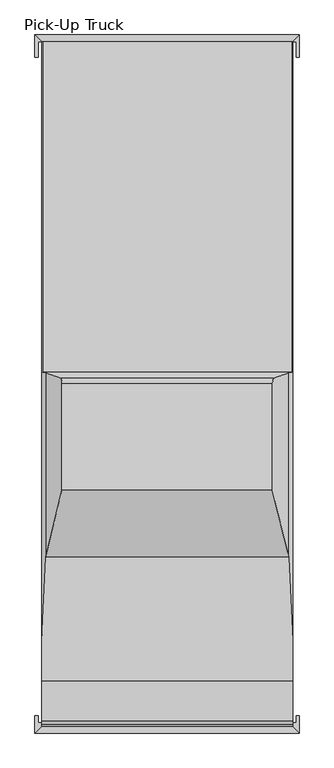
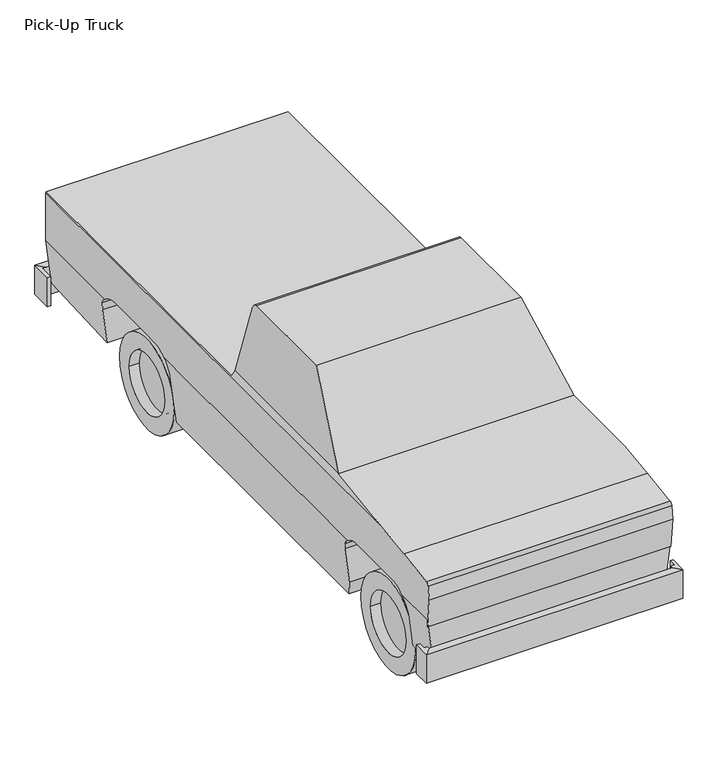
"""IFC4 building model written with IfcOpenShell, lengths in millimetres: geographic element geometry, Truck-PickUp (M) : Pick-Up Truck."""

from ifc_helpers import new_model, si_unit, point, frame, frame_2d, origin, place, context, project, spatial, polyline, circle_curve, ellipse_curve, trimmed, segment, composite_curve, outline, extrude, faceted_brep, source, transform, mapped, element, save
from ifc_brep_helpers import plane_surface, cylinder_surface, revolved_surface, advanced_brep


def pick_up_truck_a7c124ad(model_context):
    return source(origin(), model_context, "Body", "SolidModel", [
        advanced_brep(
        [(-882.1615385, 2103.6156034, 888.7336798), (-882.1615385, 1697.2156034, 888.7336798), (-882.1615385, 1614.7015006, 885.1455636), (-882.1615385, 1473.5121228, 837.1131584), (-882.1615385, -912.9817492, 837.1131584), (-882.1615385, -1053.9517054, 878.8872426), (-882.1615385, -1474.8105853, 878.8872426), (-882.1615385, -1617.7834877, 837.1131584), (-882.1615385, -1951.924276, 837.1131584), (-882.1615385, -1951.924276, 779.2411665), (-882.1615385, -1975.8194827, 1006.5888718), (-882.1615385, -1963.4375574, 1107.4315608), (-882.1615385, -1939.9042038, 1130.9649145), (-882.1615385, -1644.5045632, 1173.526104), (-882.1615385, -1353.2454526, 1210.3079682), (-882.1615385, 3015.7615385, 1210.3079682), (-882.1615385, 3015.7615385, 837.1131584), (-882.1615385, 2243.9728923, 837.1131584), (946.6384615, -1644.5045632, 1173.526104), (946.6384615, -1939.9042038, 1130.9649145), (946.6384615, -1963.4375574, 1107.4315608), (946.6384615, -1975.8194827, 1006.5888718), (946.6384615, -1951.924276, 779.2411665), (946.6384615, -1951.924276, 837.1131584), (946.6384615, -1617.7834877, 837.1131584), (946.6384615, -1474.8105853, 878.8872426), (946.6384615, -1053.9517054, 878.8872426), (946.6384615, -912.9817492, 837.1131584), (946.6384615, 1473.5121228, 837.1131584), (946.6384615, 1614.7015006, 885.1455636), (946.6384615, 1697.2156034, 888.7336798), (946.6384615, 2103.6156034, 888.7336798), (946.6384615, 2243.9728923, 837.1131584), (946.6384615, 3015.7615385, 837.1131584), (946.6384615, 3015.7615385, 1210.3079682), (946.6384615, -1353.2454526, 1210.3079682), (-876.2843723, 3015.7615385, 1219.2), (940.7612953, 3015.7615385, 1219.2), (902.1686195, 3015.7615385, 480.544728), (-837.6916964, 3015.7615385, 480.544728), (897.0369558, 2300.369269, 439.3979826), (-832.5600327, 2300.369269, 439.3979826), (930.9047354, 2300.369269, 710.9568741), (-866.4278123, 2300.369269, 710.9568741), (939.4838124, 2288.2399438, 779.7456957), (-875.0068893, 2288.2399438, 779.7456957), (944.2646239, 1453.4521306, 818.079235), (-879.7877008, 1453.4521306, 818.079235), (935.7642918, 1419.378607, 749.921807), (-871.2873687, 1419.378607, 749.921807), (884.1769157, 1419.378607, 336.2835102), (-819.6999926, 1419.378607, 336.2835102), (884.1769157, -823.559725, 336.2835102), (-819.6999926, -823.559725, 336.2835102), (898.6478484, -854.6501227, 452.314454), (-834.1709253, -854.6501227, 452.314454), (933.4935408, -854.6501227, 731.714454), (-869.0166178, -854.6501227, 731.714454), (939.6132416, -867.7981302, 780.783486), (-875.1363185, -867.7981302, 780.783486), (930.9350571, -1682.962287, 711.2), (-866.458134, -1682.962287, 711.2), (899.0315641, -1682.962287, 455.3911665), (-834.554641, -1682.962287, 455.3911665), (899.0315641, -1951.924276, 455.3911665), (-834.554641, -1951.924276, 455.3911665), (939.4208895, -1951.924276, 779.2411665), (-874.9439664, -1951.924276, 779.2411665), (917.6799973, -743.8423581, 1254.1215299), (-853.2030742, -743.8423581, 1254.1215299), (800.2028589, -255.2503888, 1778.0), (-735.7259358, -255.2503888, 1778.0), (800.2028589, 522.1190782, 1778.0), (-735.7259358, 522.1190782, 1778.0), (-743.5250355, 560.0740962, 1743.2206338), (808.0019586, 560.0740962, 1743.2206338), (917.6799973, 602.8647232, 1254.1215299), (940.7612953, 605.9199612, 1219.2), (-876.2843723, 605.9199612, 1219.2), (-853.2030742, 602.8647232, 1254.1215299)],
        [
            (0, 1),
            (1, 2),
            (2, 3, circle_curve(frame((-882.1615385, 1606.9552598, 676.3888042), z_axis=(1.0, 0.0, 0.0), x_axis=(0.0, -1.0, 0.0)), 208.900428)),
            (3, 4),
            (4, 5, circle_curve(frame((-882.1615385, -1031.5575926, 695.7137663), z_axis=(1.0, 0.0, 0.0), x_axis=(0.0, -1.0, 0.0)), 184.5373098)),
            (5, 6),
            (6, 7, circle_curve(frame((-882.1615385, -1498.8876828, 695.7404401), z_axis=(1.0, 0.0, 0.0), x_axis=(0.0, -1.0, 0.0)), 184.7226513)),
            (7, 8),
            (8, 9),
            (9, 10),
            (10, 11),
            (11, 12, circle_curve(frame((-882.1615385, -1939.9042038, 1107.4315608), z_axis=(-1.0, 0.0, 0.0), x_axis=(0.0, -1.0, 0.0)), 23.5333537)),
            (12, 13),
            (13, 14, circle_curve(frame((-882.1615385, -446.5414344, -7141.0412638), z_axis=(-1.0, 0.0, 0.0), x_axis=(0.0, -1.0, 0.0)), 8400.4253566)),
            (14, 15),
            (15, 16),
            (16, 17),
            (17, 0, circle_curve(frame((-882.1615385, 2109.2327636, 687.3793785), z_axis=(1.0, 0.0, 0.0), x_axis=(0.0, -1.0, 0.0)), 201.4326367)),
            (18, 19),
            (19, 20, circle_curve(frame((946.6384615, -1939.9042038, 1107.4315608), z_axis=(1.0, 0.0, 0.0), x_axis=(0.0, -1.0, 0.0)), 23.5333537)),
            (20, 21),
            (21, 22),
            (22, 23),
            (23, 24),
            (24, 25, circle_curve(frame((946.6384615, -1498.8876828, 695.7404401), z_axis=(-1.0, 0.0, 0.0), x_axis=(0.0, -1.0, 0.0)), 184.7226513)),
            (25, 26),
            (26, 27, circle_curve(frame((946.6384615, -1031.5575926, 695.7137663), z_axis=(-1.0, 0.0, 0.0), x_axis=(0.0, -1.0, 0.0)), 184.5373098)),
            (27, 28),
            (28, 29, circle_curve(frame((946.6384615, 1606.9552598, 676.3888042), z_axis=(-1.0, 0.0, 0.0), x_axis=(0.0, -1.0, 0.0)), 208.900428)),
            (29, 30),
            (30, 31),
            (31, 32, circle_curve(frame((946.6384615, 2109.2327636, 687.3793785), z_axis=(-1.0, 0.0, 0.0), x_axis=(0.0, -1.0, 0.0)), 201.4326367)),
            (32, 33),
            (33, 34),
            (34, 35),
            (35, 18, circle_curve(frame((946.6384615, -446.5414344, -7141.0412638), z_axis=(1.0, 0.0, 0.0), x_axis=(0.0, -1.0, 0.0)), 8400.4253566)),
            (15, 36),
            (36, 37),
            (37, 34),
            (33, 38),
            (38, 39),
            (39, 16),
            (38, 40),
            (40, 41),
            (41, 39),
            (40, 42),
            (42, 43),
            (43, 41),
            (42, 44),
            (44, 45),
            (45, 43),
            (31, 0),
            (17, 45, ellipse_curve(frame((-863.4873178, 2109.2327636, 687.3793785), z_axis=(-0.9923125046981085, 0.0, -0.12375739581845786), x_axis=(0.12375739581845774, 0.0, -0.9923125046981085)), 202.9931455, 201.4326367)),
            (44, 32, ellipse_curve(frame((927.9642409, 2109.2327636, 687.3793785), z_axis=(0.992312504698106, 0.0, -0.12375739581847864), x_axis=(0.12375739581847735, 0.0, 0.9923125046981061)), 202.9931455, 201.4326367)),
            (30, 1),
            (29, 2),
            (28, 46, ellipse_curve(frame((926.5935388, 1606.9552598, 676.3888042), z_axis=(0.992312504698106, 0.0, -0.12375739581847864), x_axis=(0.12375739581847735, 0.0, 0.9923125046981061)), 210.5187902, 208.900428)),
            (46, 47),
            (47, 3, ellipse_curve(frame((-862.1166157, 1606.9552598, 676.3888042), z_axis=(-0.9923125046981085, 0.0, -0.12375739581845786), x_axis=(0.12375739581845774, 0.0, -0.9923125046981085)), 210.5187902, 208.900428)),
            (46, 48),
            (48, 49),
            (49, 47),
            (48, 50),
            (50, 51),
            (51, 49),
            (50, 52),
            (52, 53),
            (53, 51),
            (52, 54),
            (54, 55),
            (55, 53),
            (54, 56),
            (56, 57),
            (57, 55),
            (56, 58),
            (58, 59),
            (59, 57),
            (26, 5),
            (4, 59, ellipse_curve(frame((-864.5267506, -1031.5575926, 695.7137663), z_axis=(-0.9923125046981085, 0.0, -0.12375739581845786), x_axis=(0.12375739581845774, 0.0, -0.9923125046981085)), 185.9669297, 184.5373098)),
            (58, 27, ellipse_curve(frame((929.0036737, -1031.5575926, 695.7137663), z_axis=(0.992312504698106, 0.0, -0.12375739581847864), x_axis=(0.12375739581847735, 0.0, 0.9923125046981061)), 185.9669297, 184.5373098)),
            (25, 6),
            (24, 60, ellipse_curve(frame((929.0070003, -1498.8876828, 695.7404401), z_axis=(0.992312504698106, 0.0, -0.12375739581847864), x_axis=(0.12375739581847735, 0.0, 0.9923125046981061)), 186.153707, 184.7226513)),
            (60, 61),
            (61, 7, ellipse_curve(frame((-864.5300772, -1498.8876828, 695.7404401), z_axis=(-0.9923125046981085, 0.0, -0.12375739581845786), x_axis=(0.12375739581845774, 0.0, -0.9923125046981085)), 186.153707, 184.7226513)),
            (60, 62),
            (62, 63),
            (63, 61),
            (62, 64),
            (64, 65),
            (65, 63),
            (64, 66),
            (66, 67),
            (67, 65),
            (9, 67),
            (66, 22),
            (21, 10),
            (20, 11),
            (19, 12),
            (18, 13),
            (35, 68, ellipse_curve(frame((6466.4418903, -446.5414344, -7141.0412638), z_axis=(-0.8342458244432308, 0.0, -0.5513926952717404), x_axis=(-0.55139269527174, 0.0, 0.8342458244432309)), 10069.4844499, 8400.4253566)),
            (68, 69),
            (69, 14, ellipse_curve(frame((-6401.9649673, -446.5414344, -7141.0412638), z_axis=(0.8342458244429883, 0.0, -0.551392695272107), x_axis=(-0.551392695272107, 0.0, -0.8342458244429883)), 10069.4844499, 8400.4253566)),
            (68, 70),
            (70, 71),
            (71, 69),
            (70, 72),
            (72, 73),
            (73, 71),
            (74, 75),
            (75, 76),
            (76, 77),
            (77, 78),
            (78, 79),
            (79, 74),
            (36, 78),
            (77, 37),
            (8, 67),
            (66, 23),
            (69, 79),
            (73, 74, ellipse_curve(frame((-744.2696711, 522.1190782, 1739.9), z_axis=(-0.9757672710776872, 0.0, 0.2188109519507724), x_axis=(-0.2188109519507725, 0.0, -0.9757672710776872)), 39.0461959, 38.1)),
            (68, 76),
            (75, 72, ellipse_curve(frame((808.7465942, 522.1190782, 1739.9), z_axis=(0.9757672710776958, 0.0, 0.2188109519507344), x_axis=(-0.21881095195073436, 0.0, 0.9757672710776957)), 39.0461959, 38.1)),
        ],
        [
            plane_surface(frame((-882.1615385, 3015.7615385, 480.544728), z_axis=(-1.0, 0.0, 0.0), x_axis=(0.0, 0.0, -1.0))),
            plane_surface(frame((946.6384615, 3015.7615385, 480.544728), z_axis=(1.0, 0.0, 0.0), x_axis=(0.0, 0.0, 1.0))),
            plane_surface(frame((-882.1615385, 3015.7615385, 1219.2), z_axis=(0.0, 1.0, 0.0), x_axis=(1.0, 0.0, 0.0))),
            plane_surface(frame((-882.1615385, 3015.7615385, 480.544728), z_axis=(0.0, 0.05742144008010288, -0.9983500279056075), x_axis=(1.0, 0.0, 0.0))),
            plane_surface(frame((-882.1615385, 2300.369269, 439.3979826), z_axis=(0.0, -1.0, 0.0), x_axis=(1.0, 0.0, 0.0))),
            plane_surface(frame((-882.1615385, 2300.369269, 710.9568741), z_axis=(0.0, -0.9848077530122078, -0.17364817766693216), x_axis=(1.0, 0.0, 0.0))),
            revolved_surface(polyline([(953.0861439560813, 1907.8001269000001, 687.3793785), (-888.6092208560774, 1907.8001269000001, 687.3793785)]), (946.6384615, 2109.2327636, 687.3793785), (1.0, 0.0, 0.0)),
            plane_surface(frame((-882.1615385, 2103.6156034, 888.7336798), z_axis=(0.0, 0.0, -1.0), x_axis=(1.0, 0.0, 0.0))),
            plane_surface(frame((-882.1615385, 1697.2156034, 888.7336798), z_axis=(0.0, 0.04344382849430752, -0.9990558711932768), x_axis=(1.0, 0.0, 0.0))),
            revolved_surface(polyline([(952.6467960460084, 1398.0548318, 676.3888042), (-888.1698729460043, 1398.0548318, 676.3888042)]), (946.6384615, 1606.9552598, 676.3888042), (1.0, 0.0, 0.0)),
            plane_surface(frame((-882.1615385, 1453.4521306, 818.079235), z_axis=(0.0, 0.8944544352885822, -0.44715910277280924), x_axis=(1.0, 0.0, 0.0))),
            plane_surface(frame((-882.1615385, 1419.378607, 749.921807), z_axis=(0.0, 1.0, 0.0), x_axis=(1.0, 0.0, 0.0))),
            plane_surface(frame((-882.1615385, 1419.378607, 336.2835102), z_axis=(0.0, 0.0, -1.0), x_axis=(1.0, 0.0, 0.0))),
            plane_surface(frame((-882.1615385, -823.559725, 336.2835102), z_axis=(0.0, -0.965925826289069, -0.2588190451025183), x_axis=(1.0, 0.0, 0.0))),
            plane_surface(frame((-882.1615385, -854.6501227, 452.314454), z_axis=(0.0, -1.0, 0.0), x_axis=(1.0, 0.0, 0.0))),
            plane_surface(frame((-882.1615385, -854.6501227, 731.714454), z_axis=(0.0, -0.9659258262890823, -0.25881904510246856), x_axis=(1.0, 0.0, 0.0))),
            revolved_surface(polyline([(952.0184566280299, -1216.0949024, 695.7137663), (-887.5415335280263, -1216.0949024, 695.7137663)]), (946.6384615, -1031.5575926, 695.7137663), (1.0, 0.0, 0.0)),
            plane_surface(frame((-882.1615385, -1053.9517054, 878.8872426), z_axis=(0.0, 0.0, -1.0), x_axis=(1.0, 0.0, 0.0))),
            revolved_surface(polyline([(952.0448983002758, -1683.6103341, 695.7404401), (-887.5679752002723, -1683.6103341, 695.7404401)]), (946.6384615, -1498.8876828, 695.7404401), (1.0, 0.0, 0.0)),
            plane_surface(frame((-882.1615385, -1682.962287, 711.2), z_axis=(0.0, 1.0, 0.0), x_axis=(1.0, 0.0, 0.0))),
            plane_surface(frame((-882.1615385, -1682.962287, 455.3911665), z_axis=(0.0, 0.0, -1.0), x_axis=(1.0, 0.0, 0.0))),
            plane_surface(frame((-882.1615385, -1951.924276, 455.3911665), z_axis=(0.0, -1.0, 0.0), x_axis=(1.0, 0.0, 0.0))),
            plane_surface(frame((-882.1615385, -1951.924276, 779.2411665), z_axis=(0.0, -0.9945218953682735, -0.10452846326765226), x_axis=(1.0, 0.0, 0.0))),
            plane_surface(frame((-882.1615385, -1975.8194827, 1006.5888718), z_axis=(0.0, -0.9925461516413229, 0.12186934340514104), x_axis=(1.0, 0.0, 0.0))),
            cylinder_surface(frame((946.6384615, -1939.9042038, 1107.4315608), z_axis=(-1.0, 0.0, 0.0), x_axis=(0.0, -1.0, 0.0)), 23.5333537),
            plane_surface(frame((-882.1615385, -1939.9042038, 1130.9649145), z_axis=(0.0, -0.1426074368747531, 0.9897793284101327), x_axis=(1.0, 0.0, 0.0))),
            cylinder_surface(frame((946.6384615, -446.5414344, -7141.0412638), z_axis=(-1.0, 0.0, 0.0), x_axis=(0.0, -1.0, 0.0)), 8400.4253566),
            plane_surface(frame((-882.1615385, -743.8423581, 1254.1215299), z_axis=(0.0, -0.7313067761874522, 0.6820486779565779), x_axis=(1.0, 0.0, 0.0))),
            plane_surface(frame((-882.1615385, -255.2503888, 1778.0), z_axis=(0.0, 0.0, 1.0), x_axis=(1.0, 0.0, 0.0))),
            plane_surface(frame((-882.1615385, 560.0740962, 1743.2206338), z_axis=(0.0, 0.9961946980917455, 0.08715574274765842), x_axis=(1.0, 0.0, 0.0))),
            plane_surface(frame((-882.1615385, 605.9199612, 1219.2), z_axis=(0.0, 0.0, 1.0), x_axis=(1.0, 0.0, 0.0))),
            plane_surface(frame((-730.4934031, -1951.924276, 305.3311322), z_axis=(0.0, 1.0, 0.0), x_axis=(1.0, 0.0, 0.0))),
            plane_surface(frame((-815.8397312, -1951.924276, 305.3311322), z_axis=(-0.9923125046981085, 0.0, -0.12375739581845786), x_axis=(0.0, 1.0, 0.0))),
            plane_surface(frame((-884.2900076, -1951.924276, 1207.0876381), z_axis=(-0.8342458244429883, 0.0, 0.551392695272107), x_axis=(0.0, 1.0, 0.0))),
            plane_surface(frame((-853.2030742, -1951.924276, 1254.1215299), z_axis=(-0.9757672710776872, 0.0, 0.2188109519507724), x_axis=(0.0, 1.0, 0.0))),
            plane_surface(frame((800.2028589, -1951.924276, 1778.0), z_axis=(0.9757672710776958, 0.0, 0.2188109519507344), x_axis=(0.0, 1.0, 0.0))),
            plane_surface(frame((917.6799973, -1951.924276, 1254.1215299), z_axis=(0.8342458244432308, 0.0, 0.5513926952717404), x_axis=(0.0, 1.0, 0.0))),
            plane_surface(frame((948.7669307, -1951.924276, 854.1796662), z_axis=(0.992312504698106, 0.0, -0.12375739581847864), x_axis=(0.0, 1.0, 0.0))),
            cylinder_surface(frame((946.6384615, 522.1190782, 1739.9), z_axis=(-1.0, 0.0, 0.0), x_axis=(0.0, -1.0, 0.0)), 38.1),
        ],
        [
            (0, [[1, 2, 3, 4, 5, 6, 7, 8, 9, 10, 11, 12, 13, 14, 15, 16, 17, 18]]),
            (1, [[19, 20, 21, 22, 23, 24, 25, 26, 27, 28, 29, 30, 31, 32, 33, 34, 35, 36]]),
            (2, [[-16, 37, 38, 39, -34, 40, 41, 42]]),
            (3, [[-41, 43, 44, 45]]),
            (4, [[-44, 46, 47, 48]]),
            (5, [[-47, 49, 50, 51]]),
            (6, [[52, -18, 53, -50, 54, -32]]),
            (7, [[-1, -52, -31, 55]]),
            (8, [[-2, -55, -30, 56]]),
            (9, [[-56, -29, 57, 58, 59, -3]]),
            (10, [[-58, 60, 61, 62]]),
            (11, [[-61, 63, 64, 65]]),
            (12, [[-64, 66, 67, 68]]),
            (13, [[-67, 69, 70, 71]]),
            (14, [[-70, 72, 73, 74]]),
            (15, [[-73, 75, 76, 77]]),
            (16, [[78, -5, 79, -76, 80, -27]]),
            (17, [[-6, -78, -26, 81]]),
            (18, [[-81, -25, 82, 83, 84, -7]]),
            (19, [[-83, 85, 86, 87]]),
            (20, [[-86, 88, 89, 90]]),
            (21, [[-89, 91, 92, 93]]),
            (22, [[-10, 94, -92, 95, -22, 96]]),
            (23, [[-11, -96, -21, 97]]),
            (24, [[-12, -97, -20, 98]]),
            (25, [[-13, -98, -19, 99]]),
            (26, [[-99, -36, 100, 101, 102, -14]]),
            (27, [[-101, 103, 104, 105]]),
            (28, [[-104, 106, 107, 108]]),
            (29, [[109, 110, 111, 112, 113, 114]]),
            (30, [[-38, 115, -112, 116]]),
            (31, [[117, -94, -9]]),
            (31, [[118, -23, -95]]),
            (32, [[-4, -59, -62, -65, -68, -71, -74, -77, -79]]),
            (32, [[-17, -42, -45, -48, -51, -53]]),
            (32, [[-117, -8, -84, -87, -90, -93]]),
            (33, [[119, -113, -115, -37, -15, -102]]),
            (34, [[-119, -105, -108, 120, -114]]),
            (35, [[121, -110, 122, -106, -103]]),
            (36, [[-121, -100, -35, -39, -116, -111]]),
            (37, [[-28, -80, -75, -72, -69, -66, -63, -60, -57]]),
            (37, [[-33, -54, -49, -46, -43, -40]]),
            (37, [[-118, -91, -88, -85, -82, -24]]),
            (38, [[-107, -122, -109, -120]]),
        ],
    ),
        faceted_brep([(-932.9615385, -1899.6194827, 394.7577003), (-932.9615385, -1899.6194827, 623.3577003), (-907.5615385, -1899.6194827, 623.3577003), (-907.5615385, -1899.6194827, 394.7577003), (-932.9615385, -2026.6194827, 394.7577003), (-932.9615385, -2026.6194827, 623.3577003), (-882.1615385, -1975.8194827, 623.3577003), (-882.1615385, -1951.924276, 623.3577003), (-907.5615385, -1951.924276, 623.3577003), (-882.1615385, -1975.8194827, 394.7577003), (-882.1615385, -1951.924276, 394.7577003), (-907.5615385, -1951.924276, 394.7577003), (993.9251801, -2026.6194827, 394.7577003), (993.9251801, -2026.6194827, 623.3577003), (943.1251801, -1975.8194827, 623.3577003), (943.1251801, -1975.8194827, 394.7577003), (993.9251801, -1899.6194827, 623.3577003), (993.9251801, -1899.6194827, 394.7577003), (972.0384615, -1899.6194827, 394.7577003), (972.0384615, -1899.6194827, 623.3577003), (972.0384615, -1951.924276, 623.3577003), (943.1251801, -1951.924276, 623.3577003), (943.1251801, -1951.924276, 394.7577003), (972.0384615, -1951.924276, 394.7577003)], [[[0, 1, 2, 3]], [[1, 0, 4, 5]], [[1, 5, 6, 7, 8, 2]], [[6, 9, 10, 7]], [[4, 0, 3, 11, 10, 9]], [[5, 4, 12, 13]], [[6, 5, 13, 14]], [[9, 6, 14, 15]], [[4, 9, 15, 12]], [[16, 17, 18, 19]], [[13, 12, 17, 16]], [[14, 13, 16, 19, 20, 21]], [[15, 14, 21, 22]], [[12, 15, 22, 23, 18, 17]], [[11, 8, 7, 10]], [[20, 23, 22, 21]], [[8, 11, 3, 2]], [[23, 20, 19, 18]]]),
        faceted_brep([(-932.9615385, 2903.0203063, 623.3577003), (-932.9615385, 2903.0203063, 394.7577003), (-907.5615385, 2903.0203063, 394.7577003), (-907.5615385, 2903.0203063, 623.3577003), (-932.9615385, 3066.5615385, 394.7577003), (-882.1615385, 3015.7615385, 394.7577003), (-907.5615385, 3015.7615385, 394.7577003), (-882.1615385, 3015.7615385, 623.3577003), (-932.9615385, 3066.5615385, 623.3577003), (-907.5615385, 3015.7615385, 623.3577003), (943.1251801, 3015.7615385, 394.7577003), (993.9251801, 3066.5615385, 394.7577003), (972.0384615, 3015.7615385, 394.7577003), (972.0384615, 3015.7615385, 623.3577003), (943.1251801, 3015.7615385, 623.3577003), (993.9251801, 3066.5615385, 623.3577003), (993.9251801, 2903.0203063, 394.7577003), (993.9251801, 2903.0203063, 623.3577003), (972.0384615, 2903.0203063, 623.3577003), (972.0384615, 2903.0203063, 394.7577003)], [[[0, 1, 2, 3]], [[1, 4, 5, 6, 2]], [[7, 8, 0, 3, 9]], [[1, 0, 8, 4]], [[10, 5, 4, 11]], [[10, 12, 13, 14, 7, 9, 6, 5]], [[8, 7, 14, 15]], [[4, 8, 15, 11]], [[16, 17, 18, 19]], [[10, 11, 16, 19, 12]], [[15, 14, 13, 18, 17]], [[11, 15, 17, 16]], [[6, 9, 3, 2]], [[13, 12, 19, 18]]]),
        extrude(outline(composite_curve([segment(trimmed(circle_curve(frame_2d((1872.7733891, 355.6)), 355.6), [point((1517.1733891, 355.6))], [point((2228.3733891, 355.6))], False, "CARTESIAN"), True, "CONTINUOUS"), segment(trimmed(circle_curve(frame_2d((1872.7733891, 355.6)), 355.6), [point((2228.3733891, 355.6))], [point((1517.1733891, 355.6))], False, "CARTESIAN"), True, "CONTINUOUS")], self_intersect=False), holes=[composite_curve([segment(trimmed(circle_curve(frame_2d((1872.7733891, 355.6)), 228.6), [point((2101.3733891, 355.6))], [point((1644.1733891, 355.6))], True, "CARTESIAN"), True, "CONTINUOUS"), segment(trimmed(circle_curve(frame_2d((1872.7733891, 355.6)), 228.6), [point((1644.1733891, 355.6))], [point((2101.3733891, 355.6))], True, "CARTESIAN"), True, "CONTINUOUS")], self_intersect=False)]), frame((-780.5615385, 0.0, 0.0), z_axis=(1.0, 0.0, 0.0), x_axis=(0.0, 1.0, 0.0)), (0.0, 0.0, 1.0), 203.2),
        extrude(outline(composite_curve([segment(trimmed(circle_curve(frame_2d((-1267.5375629, 355.6)), 355.6), [point((-911.9375629, 355.6))], [point((-1623.1375629, 355.6))], False, "CARTESIAN"), True, "CONTINUOUS"), segment(trimmed(circle_curve(frame_2d((-1267.5375629, 355.6)), 355.6), [point((-1623.1375629, 355.6))], [point((-911.9375629, 355.6))], False, "CARTESIAN"), True, "CONTINUOUS")], self_intersect=False), holes=[composite_curve([segment(trimmed(circle_curve(frame_2d((-1267.5375629, 355.6)), 228.6), [point((-1038.9375629, 355.6))], [point((-1496.1375629, 355.6))], True, "CARTESIAN"), True, "CONTINUOUS"), segment(trimmed(circle_curve(frame_2d((-1267.5375629, 355.6)), 228.6), [point((-1496.1375629, 355.6))], [point((-1038.9375629, 355.6))], True, "CARTESIAN"), True, "CONTINUOUS")], self_intersect=False)]), frame((-780.5615385, 0.0, 0.0), z_axis=(1.0, 0.0, 0.0), x_axis=(0.0, 1.0, 0.0)), (0.0, 0.0, 1.0), 203.2),
        extrude(outline(polyline([(520.2761241, 2300.369269), (520.2761241, 1419.378607), (-437.7696481, 1419.378607), (-437.7696481, 2300.369269), (520.2761241, 2300.369269)])), frame((0.0, 0.0, 595.9078125), z_axis=(0.0, 0.0, 1.0), x_axis=(1.0, 0.0, 0.0)), (0.0, 0.0, 1.0), 27.7189478),
        extrude(outline(composite_curve([segment(polyline([(2300.369269, 456.9336798), (1419.378607, 456.9336798), (1419.378607, 749.921807), (1453.4521306, 818.079235)]), True, "CONTINUOUS"), segment(trimmed(circle_curve(frame_2d((1606.9552598, 676.3888042)), 208.900428), [point((1453.4521306, 818.079235))], [point((1614.7015006, 885.1455636))], False, "CARTESIAN"), True, "CONTINUOUS"), segment(polyline([(1614.7015006, 885.1455636), (1697.2156034, 888.7336798), (2103.6156034, 888.7336798)]), True, "CONTINUOUS"), segment(trimmed(circle_curve(frame_2d((2109.2327636, 687.3793785)), 201.4326367), [point((2103.6156034, 888.7336798))], [point((2288.2399438, 779.7456957))], False, "CARTESIAN"), True, "CONTINUOUS"), segment(polyline([(2288.2399438, 779.7456957), (2300.369269, 710.9568741), (2300.369269, 456.9336798)]), True, "CONTINUOUS")], self_intersect=False)), frame((-484.8485994, 0.0, 0.0), z_axis=(1.0, 0.0, 0.0), x_axis=(0.0, 1.0, 0.0)), (0.0, 0.0, 1.0), 47.0684735),
        extrude(outline(composite_curve([segment(polyline([(2300.369269, 456.9336798), (1419.378607, 456.9336798), (1419.378607, 749.921807), (1453.4521306, 818.079235)]), True, "CONTINUOUS"), segment(trimmed(circle_curve(frame_2d((1606.9552598, 676.3888042)), 208.900428), [point((1453.4521306, 818.079235))], [point((1614.7015006, 885.1455636))], False, "CARTESIAN"), True, "CONTINUOUS"), segment(polyline([(1614.7015006, 885.1455636), (1697.2156034, 888.7336798), (2103.6156034, 888.7336798)]), True, "CONTINUOUS"), segment(trimmed(circle_curve(frame_2d((2109.2327636, 687.3793785)), 201.4326367), [point((2103.6156034, 888.7336798))], [point((2288.2399438, 779.7456957))], False, "CARTESIAN"), True, "CONTINUOUS"), segment(polyline([(2288.2399438, 779.7456957), (2300.369269, 710.9568741), (2300.369269, 456.9336798)]), True, "CONTINUOUS")], self_intersect=False)), frame((520.2761241, 0.0, 0.0), z_axis=(1.0, 0.0, 0.0), x_axis=(0.0, 1.0, 0.0)), (0.0, 0.0, 1.0), 35.321875),
        extrude(outline(composite_curve([segment(trimmed(circle_curve(frame_2d((1872.7733891, 355.6)), 228.6), [point((1644.1733891, 355.6))], [point((2101.3733891, 355.6))], False, "CARTESIAN"), True, "CONTINUOUS"), segment(trimmed(circle_curve(frame_2d((1872.7733891, 355.6)), 228.6), [point((2101.3733891, 355.6))], [point((1644.1733891, 355.6))], False, "CARTESIAN"), True, "CONTINUOUS")], self_intersect=False)), frame((-705.0934031, 0.0, 0.0), z_axis=(1.0, 0.0, 0.0), x_axis=(0.0, 1.0, 0.0)), (0.0, 0.0, 1.0), 127.8117146),
        extrude(outline(composite_curve([segment(trimmed(circle_curve(frame_2d((-1267.5375629, 355.6)), 228.6), [point((-1496.1375629, 355.6))], [point((-1038.9375629, 355.6))], False, "CARTESIAN"), True, "CONTINUOUS"), segment(trimmed(circle_curve(frame_2d((-1267.5375629, 355.6)), 228.6), [point((-1038.9375629, 355.6))], [point((-1496.1375629, 355.6))], False, "CARTESIAN"), True, "CONTINUOUS")], self_intersect=False)), frame((-705.0934031, 0.0, 0.0), z_axis=(1.0, 0.0, 0.0), x_axis=(0.0, 1.0, 0.0)), (0.0, 0.0, 1.0), 127.8117146),
        extrude(outline(composite_curve([segment(trimmed(circle_curve(frame_2d((1872.7733891, 355.6)), 355.6), [point((1517.1733891, 355.6))], [point((2228.3733891, 355.6))], False, "CARTESIAN"), True, "CONTINUOUS"), segment(trimmed(circle_curve(frame_2d((1872.7733891, 355.6)), 355.6), [point((2228.3733891, 355.6))], [point((1517.1733891, 355.6))], False, "CARTESIAN"), True, "CONTINUOUS")], self_intersect=False), holes=[composite_curve([segment(trimmed(circle_curve(frame_2d((1872.7733891, 355.6)), 228.6), [point((2101.3733891, 355.6))], [point((1644.1733891, 355.6))], True, "CARTESIAN"), True, "CONTINUOUS"), segment(trimmed(circle_curve(frame_2d((1872.7733891, 355.6)), 228.6), [point((1644.1733891, 355.6))], [point((2101.3733891, 355.6))], True, "CARTESIAN"), True, "CONTINUOUS")], self_intersect=False)]), frame((641.8384615, 0.0, 0.0), z_axis=(1.0, 0.0, 0.0), x_axis=(0.0, 1.0, 0.0)), (0.0, 0.0, 1.0), 203.2),
        extrude(outline(composite_curve([segment(trimmed(circle_curve(frame_2d((-1267.5375629, 355.6)), 355.6), [point((-911.9375629, 355.6))], [point((-1623.1375629, 355.6))], False, "CARTESIAN"), True, "CONTINUOUS"), segment(trimmed(circle_curve(frame_2d((-1267.5375629, 355.6)), 355.6), [point((-1623.1375629, 355.6))], [point((-911.9375629, 355.6))], False, "CARTESIAN"), True, "CONTINUOUS")], self_intersect=False), holes=[composite_curve([segment(trimmed(circle_curve(frame_2d((-1267.5375629, 355.6)), 228.6), [point((-1038.9375629, 355.6))], [point((-1496.1375629, 355.6))], True, "CARTESIAN"), True, "CONTINUOUS"), segment(trimmed(circle_curve(frame_2d((-1267.5375629, 355.6)), 228.6), [point((-1496.1375629, 355.6))], [point((-1038.9375629, 355.6))], True, "CARTESIAN"), True, "CONTINUOUS")], self_intersect=False)]), frame((641.8384615, 0.0, 0.0), z_axis=(1.0, 0.0, 0.0), x_axis=(0.0, 1.0, 0.0)), (0.0, 0.0, 1.0), 203.2),
        extrude(outline(composite_curve([segment(trimmed(circle_curve(frame_2d((1872.7733891, 355.6)), 228.6), [point((1644.1733891, 355.6))], [point((2101.3733891, 355.6))], False, "CARTESIAN"), True, "CONTINUOUS"), segment(trimmed(circle_curve(frame_2d((1872.7733891, 355.6)), 228.6), [point((2101.3733891, 355.6))], [point((1644.1733891, 355.6))], False, "CARTESIAN"), True, "CONTINUOUS")], self_intersect=False)), frame((641.7586115, 0.0, 0.0), z_axis=(1.0, 0.0, 0.0), x_axis=(0.0, 1.0, 0.0)), (0.0, 0.0, 1.0), 127.8117146),
        extrude(outline(composite_curve([segment(trimmed(circle_curve(frame_2d((-1267.5375629, 355.6)), 228.6), [point((-1496.1375629, 355.6))], [point((-1038.9375629, 355.6))], False, "CARTESIAN"), True, "CONTINUOUS"), segment(trimmed(circle_curve(frame_2d((-1267.5375629, 355.6)), 228.6), [point((-1038.9375629, 355.6))], [point((-1496.1375629, 355.6))], False, "CARTESIAN"), True, "CONTINUOUS")], self_intersect=False)), frame((641.7586115, 0.0, 0.0), z_axis=(1.0, 0.0, 0.0), x_axis=(0.0, 1.0, 0.0)), (0.0, 0.0, 1.0), 127.8117146),
    ])


if __name__ == "__main__":
    model = new_model("IFC4")
    model_context = context("Model", 3, world=origin())
    ifc_project = project(units=[si_unit("LENGTHUNIT", "METRE", prefix="MILLI")], contexts=[model_context])
    site = spatial("IfcSite", under=ifc_project)
    building = spatial("IfcBuilding", under=site)
    placement = place(None, origin())
    pick_up_truck_shape = pick_up_truck_a7c124ad(model_context)
    element("IfcGeographicElement", 1, ObjectType="Truck-PickUp (M) : Pick-Up Truck", at=placement, inside=building, context=model_context, shape_type="MappedRepresentation", body=[
        mapped(pick_up_truck_shape, transform((0.0, 0.0, 0.0), x_axis=(1.0, 0.0, 0.0), y_axis=(0.0, 1.0, 0.0), z_axis=(0.0, 0.0, 1.0))),
    ])
    save(model, "model.ifc")
